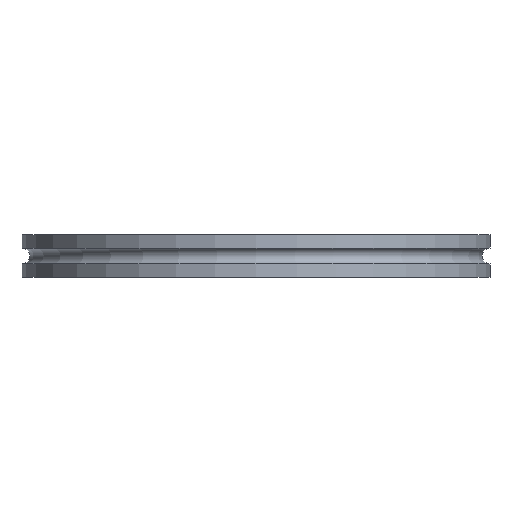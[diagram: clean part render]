
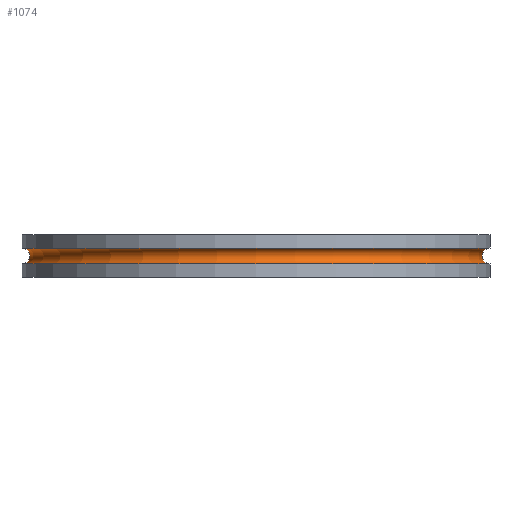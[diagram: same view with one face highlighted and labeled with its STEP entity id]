
A CAD part, front view. The second image highlights one B-rep face of the part: STEP entity #1074.
In plain terms, the highlighted toroidal (fillet/blend) face has major radius 76.3 mm and minor radius 2.6 mm.
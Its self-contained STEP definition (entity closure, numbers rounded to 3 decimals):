
#247=FACE_OUTER_BOUND('',#304,.T.);
#304=EDGE_LOOP('',(#743,#744,#745,#746,#747,#748));
#381=CIRCLE('',#1155,76.3);
#382=CIRCLE('',#1156,76.3);
#383=CIRCLE('',#1157,2.6);
#384=CIRCLE('',#1158,76.3);
#385=CIRCLE('',#1159,76.3);
#468=VERTEX_POINT('',#1668);
#469=VERTEX_POINT('',#1669);
#470=VERTEX_POINT('',#1672);
#471=VERTEX_POINT('',#1674);
#578=EDGE_CURVE('',#468,#469,#381,.T.);
#579=EDGE_CURVE('',#469,#468,#382,.T.);
#580=EDGE_CURVE('',#469,#470,#383,.T.);
#581=EDGE_CURVE('',#471,#470,#384,.T.);
#582=EDGE_CURVE('',#470,#471,#385,.T.);
#743=ORIENTED_EDGE('',*,*,#578,.F.);
#744=ORIENTED_EDGE('',*,*,#579,.F.);
#745=ORIENTED_EDGE('',*,*,#580,.T.);
#746=ORIENTED_EDGE('',*,*,#581,.F.);
#747=ORIENTED_EDGE('',*,*,#582,.F.);
#748=ORIENTED_EDGE('',*,*,#580,.F.);
#1073=TOROIDAL_SURFACE('',#1154,76.3,2.6);
#1074=ADVANCED_FACE('',(#247),#1073,.F.);
#1154=AXIS2_PLACEMENT_3D('',#1667,#1300,#1301);
#1155=AXIS2_PLACEMENT_3D('',#1670,#1302,#1303);
#1156=AXIS2_PLACEMENT_3D('',#1671,#1304,#1305);
#1157=AXIS2_PLACEMENT_3D('',#1673,#1306,#1307);
#1158=AXIS2_PLACEMENT_3D('',#1675,#1308,#1309);
#1159=AXIS2_PLACEMENT_3D('',#1676,#1310,#1311);
#1300=DIRECTION('center_axis',(0.,0.,-1.));
#1301=DIRECTION('ref_axis',(-1.,0.,0.));
#1302=DIRECTION('center_axis',(0.,0.,-1.));
#1303=DIRECTION('ref_axis',(1.,0.,0.));
#1304=DIRECTION('center_axis',(0.,0.,-1.));
#1305=DIRECTION('ref_axis',(1.,0.,0.));
#1306=DIRECTION('center_axis',(0.,1.,0.));
#1307=DIRECTION('ref_axis',(1.,0.,0.));
#1308=DIRECTION('center_axis',(0.,0.,1.));
#1309=DIRECTION('ref_axis',(1.,0.,0.));
#1310=DIRECTION('center_axis',(0.,0.,1.));
#1311=DIRECTION('ref_axis',(1.,0.,0.));
#1667=CARTESIAN_POINT('Origin',(0.,0.,0.));
#1668=CARTESIAN_POINT('',(-76.3,0.,-2.6));
#1669=CARTESIAN_POINT('',(76.3,0.,-2.6));
#1670=CARTESIAN_POINT('Origin',(0.,0.,-2.6));
#1671=CARTESIAN_POINT('Origin',(0.,0.,-2.6));
#1672=CARTESIAN_POINT('',(76.3,0.,2.6));
#1673=CARTESIAN_POINT('Origin',(76.3,0.,0.));
#1674=CARTESIAN_POINT('',(-76.3,0.,2.6));
#1675=CARTESIAN_POINT('Origin',(0.,0.,2.6));
#1676=CARTESIAN_POINT('Origin',(0.,0.,2.6));
